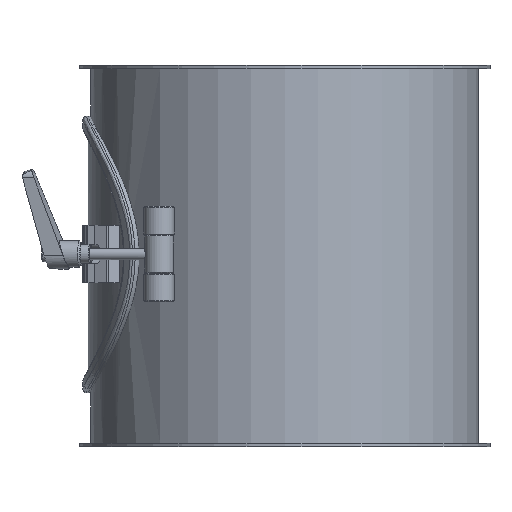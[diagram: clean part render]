
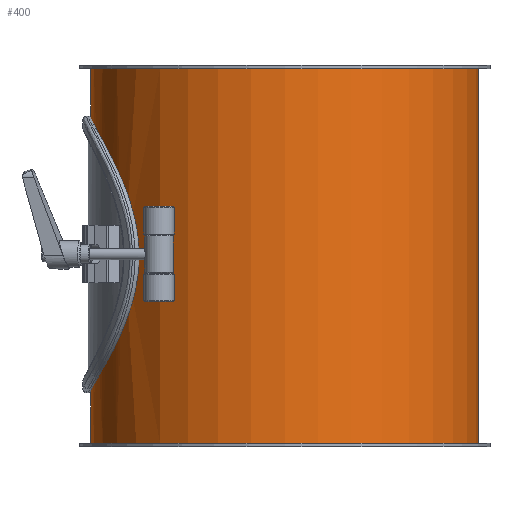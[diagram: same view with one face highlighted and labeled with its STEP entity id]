
A CAD part, front view. The second image highlights one B-rep face of the part: STEP entity #400.
In plain terms, the highlighted cylindrical face has radius 101.5 mm (diameter 203 mm), a full revolution.
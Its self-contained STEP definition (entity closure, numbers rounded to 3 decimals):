
#185=CARTESIAN_POINT('',(-83.642,-57.5,100.0));
#186=VERTEX_POINT('',#185);
#187=CARTESIAN_POINT('',(-83.642,-57.5,100.0));
#188=CARTESIAN_POINT('',(-83.642,-57.5,96.282));
#189=CARTESIAN_POINT('',(-83.897,-57.134,92.476));
#190=CARTESIAN_POINT('',(-84.9,-55.634,84.975));
#191=CARTESIAN_POINT('',(-85.644,-54.501,81.278));
#192=CARTESIAN_POINT('',(-87.455,-51.545,74.234));
#193=CARTESIAN_POINT('',(-88.519,-49.721,70.879));
#194=CARTESIAN_POINT('',(-90.744,-45.534,64.689));
#195=CARTESIAN_POINT('',(-91.903,-43.17,61.853));
#196=CARTESIAN_POINT('',(-94.093,-38.159,56.842));
#197=CARTESIAN_POINT('',(-95.209,-35.33,54.48));
#198=CARTESIAN_POINT('',(-97.283,-29.138,50.289));
#199=CARTESIAN_POINT('',(-98.24,-25.775,48.458));
#200=CARTESIAN_POINT('',(-99.826,-18.712,45.495));
#201=CARTESIAN_POINT('',(-100.456,-15.006,44.361));
#202=CARTESIAN_POINT('',(-101.293,-7.5,42.863));
#203=CARTESIAN_POINT('',(-101.5,-3.7,42.5));
#204=CARTESIAN_POINT('',(-101.5,3.7,42.5));
#205=CARTESIAN_POINT('',(-101.293,7.5,42.863));
#206=CARTESIAN_POINT('',(-100.456,15.006,44.361));
#207=CARTESIAN_POINT('',(-99.826,18.712,45.495));
#208=CARTESIAN_POINT('',(-98.24,25.775,48.458));
#209=CARTESIAN_POINT('',(-97.283,29.138,50.289));
#210=CARTESIAN_POINT('',(-95.209,35.33,54.48));
#211=CARTESIAN_POINT('',(-94.093,38.159,56.842));
#212=CARTESIAN_POINT('',(-91.903,43.17,61.853));
#213=CARTESIAN_POINT('',(-90.744,45.534,64.689));
#214=CARTESIAN_POINT('',(-88.519,49.721,70.879));
#215=CARTESIAN_POINT('',(-87.455,51.545,74.234));
#216=CARTESIAN_POINT('',(-85.644,54.501,81.278));
#217=CARTESIAN_POINT('',(-84.9,55.634,84.975));
#218=CARTESIAN_POINT('',(-83.897,57.134,92.476));
#219=CARTESIAN_POINT('',(-83.642,57.5,96.282));
#220=CARTESIAN_POINT('',(-83.642,57.5,103.718));
#221=CARTESIAN_POINT('',(-83.897,57.134,107.524));
#222=CARTESIAN_POINT('',(-84.9,55.634,115.025));
#223=CARTESIAN_POINT('',(-85.644,54.501,118.722));
#224=CARTESIAN_POINT('',(-87.455,51.545,125.766));
#225=CARTESIAN_POINT('',(-88.519,49.721,129.121));
#226=CARTESIAN_POINT('',(-90.744,45.534,135.311));
#227=CARTESIAN_POINT('',(-91.903,43.17,138.147));
#228=CARTESIAN_POINT('',(-94.093,38.159,143.158));
#229=CARTESIAN_POINT('',(-95.209,35.33,145.52));
#230=CARTESIAN_POINT('',(-97.283,29.138,149.711));
#231=CARTESIAN_POINT('',(-98.24,25.775,151.542));
#232=CARTESIAN_POINT('',(-99.826,18.712,154.505));
#233=CARTESIAN_POINT('',(-100.456,15.006,155.639));
#234=CARTESIAN_POINT('',(-101.293,7.5,157.137));
#235=CARTESIAN_POINT('',(-101.5,3.7,157.5));
#236=CARTESIAN_POINT('',(-101.5,-3.7,157.5));
#237=CARTESIAN_POINT('',(-101.293,-7.5,157.137));
#238=CARTESIAN_POINT('',(-100.456,-15.006,155.639));
#239=CARTESIAN_POINT('',(-99.826,-18.712,154.505));
#240=CARTESIAN_POINT('',(-98.24,-25.775,151.542));
#241=CARTESIAN_POINT('',(-97.283,-29.138,149.711));
#242=CARTESIAN_POINT('',(-95.209,-35.33,145.52));
#243=CARTESIAN_POINT('',(-94.093,-38.159,143.158));
#244=CARTESIAN_POINT('',(-91.903,-43.17,138.147));
#245=CARTESIAN_POINT('',(-90.744,-45.534,135.311));
#246=CARTESIAN_POINT('',(-88.519,-49.721,129.121));
#247=CARTESIAN_POINT('',(-87.455,-51.545,125.766));
#248=CARTESIAN_POINT('',(-85.644,-54.501,118.722));
#249=CARTESIAN_POINT('',(-84.9,-55.634,115.025));
#250=CARTESIAN_POINT('',(-83.897,-57.134,107.524));
#251=CARTESIAN_POINT('',(-83.642,-57.5,103.718));
#252=CARTESIAN_POINT('',(-83.642,-57.5,100.0));
#253=B_SPLINE_CURVE_WITH_KNOTS('',3,(#187,#188,#189,#190,#191,#192,#193,#194,#195,#196,#197,#198,#199,#200,#201,#202,#203,#204,#205,#206,#207,#208,#209,#210,#211,#212,#213,#214,#215,#216,#217,#218,#219,#220,#221,#222,#223,#224,#225,#226,#227,#228,#229,#230,#231,#232,#233,#234,#235,#236,#237,#238,#239,#240,#241,#242,#243,#244,#245,#246,#247,#248,#249,#250,#251,#252),.UNSPECIFIED.,.T.,.U.,(4,2,2,2,2,2,2,2,2,2,2,2,2,2,2,2,2,2,2,2,2,2,2,2,2,2,2,2,2,2,2,2,4),(0.0,1.115,2.231,3.346,4.462,5.572,6.682,7.792,8.902,10.012,11.122,12.232,13.342,14.457,15.573,16.688,17.804,18.919,20.034,21.15,22.265,23.375,24.485,25.595,26.705,27.815,28.925,30.035,31.145,32.261,33.376,34.492,35.607),.UNSPECIFIED.);
#254=EDGE_CURVE('',#186,#186,#253,.T.);
#295=CARTESIAN_POINT('',(101.5,0.,198.0));
#296=VERTEX_POINT('',#295);
#297=CARTESIAN_POINT('',(0.0,0.0,198.0));
#298=DIRECTION('',(0.0,0.0,-1.0));
#299=DIRECTION('',(-1.0,0.0,0.0));
#300=AXIS2_PLACEMENT_3D('',#297,#298,#299);
#301=CIRCLE('',#300,101.5);
#302=EDGE_CURVE('',#296,#296,#301,.T.);
#343=CARTESIAN_POINT('',(-101.5,0.,2.0));
#344=VERTEX_POINT('',#343);
#345=CARTESIAN_POINT('',(0.0,0.0,2.0));
#346=DIRECTION('',(0.0,0.0,1.0));
#347=DIRECTION('',(-1.0,0.0,0.0));
#348=AXIS2_PLACEMENT_3D('',#345,#346,#347);
#349=CIRCLE('',#348,101.5);
#350=EDGE_CURVE('',#344,#344,#349,.T.);
#386=CARTESIAN_POINT('',(0.0,0.0,0.0));
#387=DIRECTION('',(0.0,0.0,1.0));
#388=DIRECTION('',(-1.0,0.0,0.0));
#389=AXIS2_PLACEMENT_3D('',#386,#387,#388);
#390=CYLINDRICAL_SURFACE('',#389,101.5);
#391=ORIENTED_EDGE('',*,*,#302,.T.);
#392=EDGE_LOOP('',(#391));
#393=FACE_OUTER_BOUND('',#392,.T.);
#394=ORIENTED_EDGE('',*,*,#254,.T.);
#395=EDGE_LOOP('',(#394));
#396=FACE_BOUND('',#395,.T.);
#397=ORIENTED_EDGE('',*,*,#350,.T.);
#398=EDGE_LOOP('',(#397));
#399=FACE_BOUND('',#398,.T.);
#400=ADVANCED_FACE('',(#393,#396,#399),#390,.T.);
